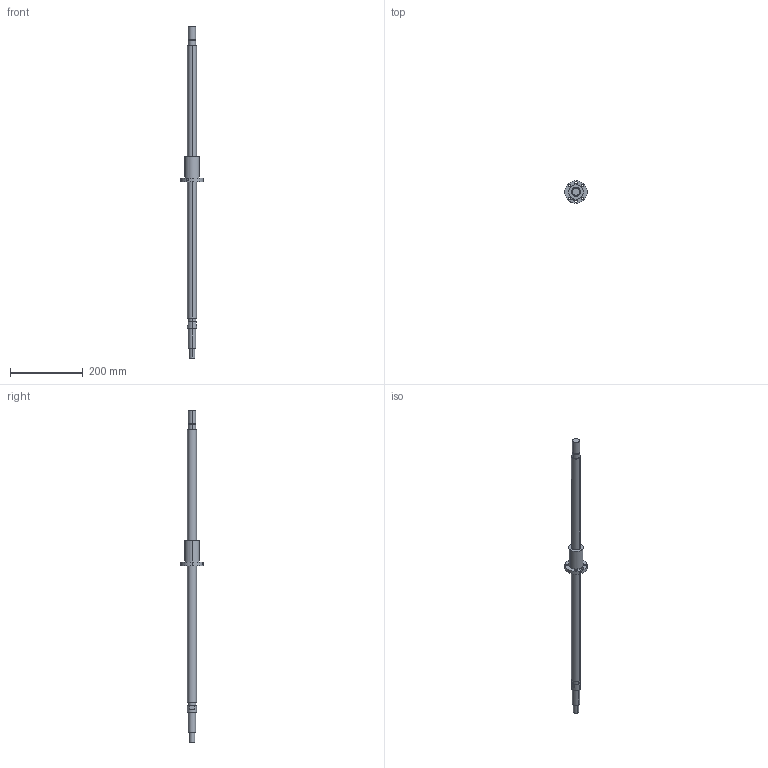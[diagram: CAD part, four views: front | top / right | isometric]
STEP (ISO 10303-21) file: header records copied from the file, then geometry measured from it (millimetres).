
FILE_DESCRIPTION((''),'2;1');
FILE_NAME('25-25K2','2008-04-11T',('cmliu'),(''),'PRO/ENGINEER BY PARAMETRIC TECHNOLOGY CORPORATION, 2004110','PRO/ENGINEER BY PARAMETRIC TECHNOLOGY CORPORATION, 2004110','');
FILE_SCHEMA(('CONFIG_CONTROL_DESIGN'));
Length unit declared in the file: millimetre
Products named in the file (1): 25-25K2
Bounding box: 62 x 62 x 913 mm (x, y, z)
Volume: 487278.5 mm3; surface area: 80500.7 mm2
Topology: 1 solids, 1 shells, 56 faces, 126 edges, 84 vertices
Faces by surface type: cylinder 39, plane 17
Entity records: 1715 total; most frequent: CARTESIAN_POINT 321, DIRECTION 310, ORIENTED_EDGE 252, AXIS2_PLACEMENT_3D 132, EDGE_CURVE 126, VERTEX_POINT 84, EDGE_LOOP 80, CIRCLE 76
